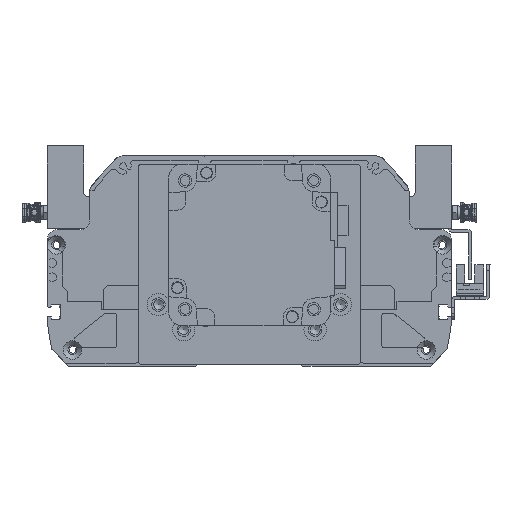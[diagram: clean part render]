
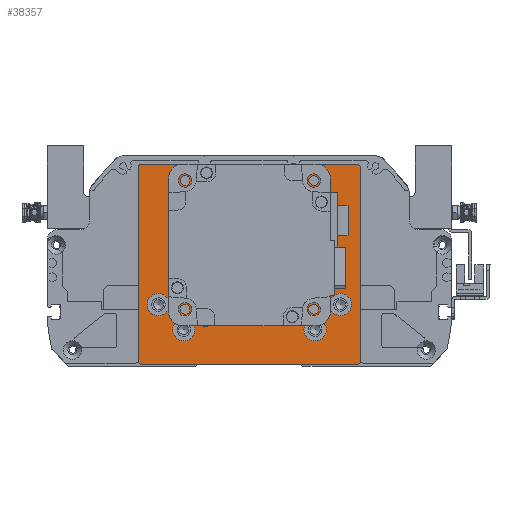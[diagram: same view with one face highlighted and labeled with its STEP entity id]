
A CAD part, front view. The second image highlights one B-rep face of the part: STEP entity #38357.
In plain terms, the highlighted planar face has unit normal (0, -1, 0) as drawn and (0, 0, 1) by its records, which use the part's own axes.
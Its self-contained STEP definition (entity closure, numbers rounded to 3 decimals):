
#830=FACE_BOUND('',#8160,.T.);
#831=FACE_BOUND('',#8161,.T.);
#832=FACE_BOUND('',#8162,.T.);
#833=FACE_BOUND('',#8163,.T.);
#834=FACE_BOUND('',#8164,.T.);
#835=FACE_BOUND('',#8165,.T.);
#836=FACE_BOUND('',#8166,.T.);
#837=FACE_BOUND('',#8167,.T.);
#838=FACE_BOUND('',#8168,.T.);
#2498=PLANE('',#42983);
#5668=FACE_OUTER_BOUND('',#8159,.T.);
#8159=EDGE_LOOP('',(#35549,#35550,#35551,#35552,#35553,#35554,#35555,#35556));
#8160=EDGE_LOOP('',(#35557));
#8161=EDGE_LOOP('',(#35558));
#8162=EDGE_LOOP('',(#35559));
#8163=EDGE_LOOP('',(#35560));
#8164=EDGE_LOOP('',(#35561));
#8165=EDGE_LOOP('',(#35562));
#8166=EDGE_LOOP('',(#35563));
#8167=EDGE_LOOP('',(#35564));
#8168=EDGE_LOOP('',(#35565));
#11027=LINE('',#68595,#13946);
#11030=LINE('',#68604,#13949);
#11033=LINE('',#68609,#13952);
#11035=LINE('',#68612,#13954);
#11036=LINE('',#68615,#13955);
#11038=LINE('',#68619,#13957);
#11040=LINE('',#68623,#13959);
#11053=LINE('',#68685,#13972);
#13946=VECTOR('',#53885,10.);
#13949=VECTOR('',#53894,10.);
#13952=VECTOR('',#53899,10.);
#13954=VECTOR('',#53903,10.);
#13955=VECTOR('',#53906,10.);
#13957=VECTOR('',#53910,10.);
#13959=VECTOR('',#53914,10.);
#13972=VECTOR('',#53993,10.);
#16191=CIRCLE('',#42940,2.459);
#16192=CIRCLE('',#42943,2.459);
#16193=CIRCLE('',#42951,2.459);
#16194=CIRCLE('',#42953,2.459);
#16197=CIRCLE('',#42958,5.5);
#16200=CIRCLE('',#42964,5.5);
#16203=CIRCLE('',#42970,5.5);
#16206=CIRCLE('',#42976,5.5);
#16208=CIRCLE('',#42981,35.);
#19664=VERTEX_POINT('',#68588);
#19665=VERTEX_POINT('',#68592);
#19666=VERTEX_POINT('',#68594);
#19667=VERTEX_POINT('',#68598);
#19668=VERTEX_POINT('',#68602);
#19669=VERTEX_POINT('',#68603);
#19670=VERTEX_POINT('',#68608);
#19671=VERTEX_POINT('',#68614);
#19672=VERTEX_POINT('',#68618);
#19673=VERTEX_POINT('',#68622);
#19674=VERTEX_POINT('',#68626);
#19675=VERTEX_POINT('',#68630);
#19678=VERTEX_POINT('',#68639);
#19681=VERTEX_POINT('',#68650);
#19684=VERTEX_POINT('',#68661);
#19687=VERTEX_POINT('',#68672);
#19689=VERTEX_POINT('',#68681);
#24973=EDGE_CURVE('',#19664,#19664,#16191,.T.);
#24976=EDGE_CURVE('',#19666,#19665,#11027,.T.);
#24978=EDGE_CURVE('',#19667,#19667,#16192,.T.);
#24980=EDGE_CURVE('',#19668,#19669,#11030,.T.);
#24983=EDGE_CURVE('',#19670,#19669,#11033,.T.);
#24985=EDGE_CURVE('',#19670,#19665,#11035,.T.);
#24986=EDGE_CURVE('',#19666,#19671,#11036,.T.);
#24988=EDGE_CURVE('',#19672,#19671,#11038,.T.);
#24990=EDGE_CURVE('',#19672,#19673,#11040,.T.);
#24992=EDGE_CURVE('',#19674,#19674,#16193,.T.);
#24994=EDGE_CURVE('',#19675,#19675,#16194,.T.);
#24998=EDGE_CURVE('',#19678,#19678,#16197,.T.);
#25003=EDGE_CURVE('',#19681,#19681,#16200,.T.);
#25008=EDGE_CURVE('',#19684,#19684,#16203,.T.);
#25013=EDGE_CURVE('',#19687,#19687,#16206,.T.);
#25017=EDGE_CURVE('',#19689,#19689,#16208,.T.);
#25019=EDGE_CURVE('',#19668,#19673,#11053,.T.);
#35549=ORIENTED_EDGE('',*,*,#24980,.F.);
#35550=ORIENTED_EDGE('',*,*,#25019,.T.);
#35551=ORIENTED_EDGE('',*,*,#24990,.F.);
#35552=ORIENTED_EDGE('',*,*,#24988,.T.);
#35553=ORIENTED_EDGE('',*,*,#24986,.F.);
#35554=ORIENTED_EDGE('',*,*,#24976,.T.);
#35555=ORIENTED_EDGE('',*,*,#24985,.F.);
#35556=ORIENTED_EDGE('',*,*,#24983,.T.);
#35557=ORIENTED_EDGE('',*,*,#24992,.T.);
#35558=ORIENTED_EDGE('',*,*,#24978,.T.);
#35559=ORIENTED_EDGE('',*,*,#24994,.T.);
#35560=ORIENTED_EDGE('',*,*,#24973,.T.);
#35561=ORIENTED_EDGE('',*,*,#24998,.T.);
#35562=ORIENTED_EDGE('',*,*,#25003,.T.);
#35563=ORIENTED_EDGE('',*,*,#25008,.T.);
#35564=ORIENTED_EDGE('',*,*,#25013,.T.);
#35565=ORIENTED_EDGE('',*,*,#25017,.T.);
#38357=ADVANCED_FACE('',(#5668,#830,#831,#832,#833,#834,#835,#836,#837,
#838),#2498,.T.);
#42940=AXIS2_PLACEMENT_3D('',#68589,#53879,#53880);
#42943=AXIS2_PLACEMENT_3D('',#68599,#53889,#53890);
#42951=AXIS2_PLACEMENT_3D('',#68627,#53918,#53919);
#42953=AXIS2_PLACEMENT_3D('',#68631,#53923,#53924);
#42958=AXIS2_PLACEMENT_3D('',#68640,#53934,#53935);
#42964=AXIS2_PLACEMENT_3D('',#68651,#53948,#53949);
#42970=AXIS2_PLACEMENT_3D('',#68662,#53962,#53963);
#42976=AXIS2_PLACEMENT_3D('',#68673,#53976,#53977);
#42981=AXIS2_PLACEMENT_3D('',#68682,#53988,#53989);
#42983=AXIS2_PLACEMENT_3D('',#68686,#53994,#53995);
#53879=DIRECTION('center_axis',(0.,0.,-1.));
#53880=DIRECTION('ref_axis',(1.,0.,0.));
#53885=DIRECTION('',(-1.,0.,0.));
#53889=DIRECTION('center_axis',(0.,0.,-1.));
#53890=DIRECTION('ref_axis',(1.,0.,0.));
#53894=DIRECTION('',(-0.707,0.707,0.));
#53899=DIRECTION('',(0.,-1.,0.));
#53903=DIRECTION('',(0.707,0.707,0.));
#53906=DIRECTION('',(0.707,-0.707,0.));
#53910=DIRECTION('',(0.,1.,0.));
#53914=DIRECTION('',(-0.707,-0.707,0.));
#53918=DIRECTION('center_axis',(0.,0.,-1.));
#53919=DIRECTION('ref_axis',(1.,0.,0.));
#53923=DIRECTION('center_axis',(0.,0.,-1.));
#53924=DIRECTION('ref_axis',(1.,0.,0.));
#53934=DIRECTION('center_axis',(0.,0.,-1.));
#53935=DIRECTION('ref_axis',(1.,0.,0.));
#53948=DIRECTION('center_axis',(0.,0.,-1.));
#53949=DIRECTION('ref_axis',(1.,0.,0.));
#53962=DIRECTION('center_axis',(0.,0.,-1.));
#53963=DIRECTION('ref_axis',(1.,0.,0.));
#53976=DIRECTION('center_axis',(0.,0.,-1.));
#53977=DIRECTION('ref_axis',(1.,0.,0.));
#53988=DIRECTION('center_axis',(0.,0.,-1.));
#53989=DIRECTION('ref_axis',(1.,0.,0.));
#53993=DIRECTION('',(1.,0.,0.));
#53994=DIRECTION('center_axis',(0.,0.,1.));
#53995=DIRECTION('ref_axis',(1.,0.,0.));
#68588=CARTESIAN_POINT('',(29.361,41.32,89.));
#68589=CARTESIAN_POINT('Origin',(31.82,41.32,89.));
#68592=CARTESIAN_POINT('',(-54.,49.5,89.));
#68594=CARTESIAN_POINT('',(54.,49.5,89.));
#68595=CARTESIAN_POINT('',(55.,49.5,89.));
#68598=CARTESIAN_POINT('',(-34.278,41.32,89.));
#68599=CARTESIAN_POINT('Origin',(-31.82,41.32,89.));
#68602=CARTESIAN_POINT('',(-54.,-49.5,89.));
#68603=CARTESIAN_POINT('',(-55.,-48.5,89.));
#68604=CARTESIAN_POINT('',(-53.125,-50.375,89.));
#68608=CARTESIAN_POINT('',(-55.,48.5,89.));
#68609=CARTESIAN_POINT('',(-55.,49.5,89.));
#68612=CARTESIAN_POINT('',(-53.125,50.375,89.));
#68614=CARTESIAN_POINT('',(55.,48.5,89.));
#68615=CARTESIAN_POINT('',(53.125,50.375,89.));
#68618=CARTESIAN_POINT('',(55.,-48.5,89.));
#68619=CARTESIAN_POINT('',(55.,-49.5,89.));
#68622=CARTESIAN_POINT('',(54.,-49.5,89.));
#68623=CARTESIAN_POINT('',(53.125,-50.375,89.));
#68626=CARTESIAN_POINT('',(29.361,-22.32,89.));
#68627=CARTESIAN_POINT('Origin',(31.82,-22.32,89.));
#68630=CARTESIAN_POINT('',(-34.278,-22.32,89.));
#68631=CARTESIAN_POINT('Origin',(-31.82,-22.32,89.));
#68639=CARTESIAN_POINT('',(27.,-32.5,89.));
#68640=CARTESIAN_POINT('Origin',(32.5,-32.5,89.));
#68650=CARTESIAN_POINT('',(-50.5,-20.,89.));
#68651=CARTESIAN_POINT('Origin',(-45.,-20.,89.));
#68661=CARTESIAN_POINT('',(-38.,-32.5,89.));
#68662=CARTESIAN_POINT('Origin',(-32.5,-32.5,89.));
#68672=CARTESIAN_POINT('',(39.5,-20.,89.));
#68673=CARTESIAN_POINT('Origin',(45.,-20.,89.));
#68681=CARTESIAN_POINT('',(-35.,9.5,89.));
#68682=CARTESIAN_POINT('Origin',(0.,9.5,89.));
#68685=CARTESIAN_POINT('',(-55.,-49.5,89.));
#68686=CARTESIAN_POINT('Origin',(0.,0.,
89.));
